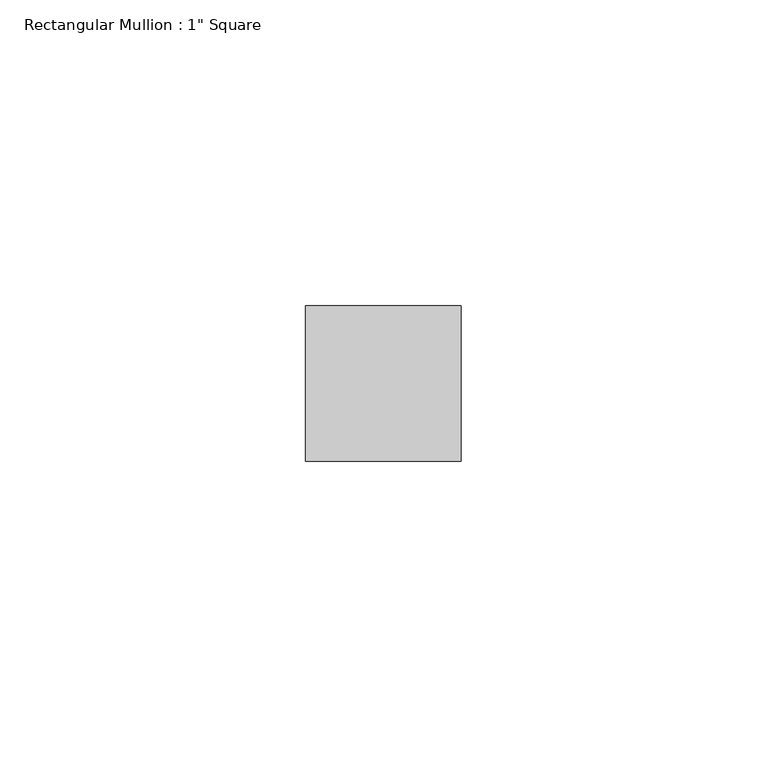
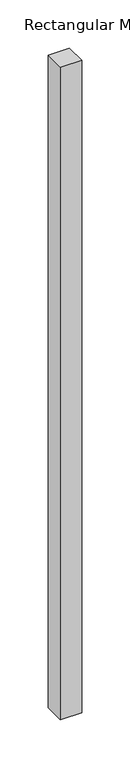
"""IFC4 building model written with IfcOpenShell, lengths in millimetres: member geometry."""

import ifcopenshell
import ifcopenshell.guid

model = None  # the IFC model being written
_history = None  # IfcOwnerHistory: only IFC2X3 demands one
_inside = {}  # id of a spatial element -> (the spatial element, [elements in it])
_under = {}  # id of a project, library or spatial element -> (it, [spatial elements below it])
_declared = {}  # id of a project -> (the project, [libraries it declares])
_typed = {}  # id of a type object -> (the type object, [elements of that type])
_made_of = {}  # id of a material, layer set ... -> (it, [elements and type objects made of it])


def new_model(schema):
    """Start an empty IFC model of exactly this schema.

    Asked for "IFC4X3", IfcOpenShell would pick the latest addendum, in which some entities
    have other attributes; the version numbers below select the first issue.
    IFC2X3 requires an IfcOwnerHistory on every rooted entity: one is made here for all.
    """
    global model, _history
    if schema == "IFC4X3":
        model = ifcopenshell.file(schema_version=(4, 3, 0, 0))
    else:
        model = ifcopenshell.file(schema=schema)
    _inside.clear()
    _under.clear()
    _declared.clear()
    _typed.clear()
    _made_of.clear()
    _history = None
    if model.schema == "IFC2X3":
        org = make("IfcOrganization", Name="unknown")
        user = make(
            "IfcPersonAndOrganization",
            ThePerson=make("IfcPerson", FamilyName="unknown"),
            TheOrganization=org,
        )
        app = make(
            "IfcApplication",
            ApplicationDeveloper=org,
            Version="unknown",
            ApplicationFullName="unknown",
            ApplicationIdentifier="unknown",
        )
        _history = make(
            "IfcOwnerHistory",
            OwningUser=user,
            OwningApplication=app,
            ChangeAction="ADDED",
            CreationDate=0,
        )
    return model


def make(cls, **values):
    """One entity of the class cls with the attributes given. An attribute that is None is left unset."""
    return model.create_entity(
        cls, **{name: value for name, value in values.items() if value is not None}
    )


def rooted(cls, **values):
    """An entity with a GlobalId (a new one), such as an element, a storey or a relation."""
    return make(cls, GlobalId=ifcopenshell.guid.new(), OwnerHistory=_history, **values)


def si_unit(unit_type, name, prefix=None):
    """IfcSIUnit, for example si_unit("LENGTHUNIT", "METRE", prefix="MILLI")."""
    return make("IfcSIUnit", UnitType=unit_type, Prefix=prefix, Name=name)


def assignment(units):
    """IfcUnitAssignment: the units of a project."""
    return None if units is None else make("IfcUnitAssignment", Units=units)


def point(xyz):
    """IfcCartesianPoint."""
    return None if xyz is None else make("IfcCartesianPoint", Coordinates=xyz)


def direction(xyz):
    """IfcDirection."""
    return None if xyz is None else make("IfcDirection", DirectionRatios=xyz)


def frame(location, z_axis=None, x_axis=None):
    """IfcAxis2Placement3D, a coordinate frame: its origin and axes. An axis left out is left unset."""
    return make(
        "IfcAxis2Placement3D",
        Location=point(location),
        Axis=direction(z_axis),
        RefDirection=direction(x_axis),
    )


def origin():
    """The frame at (0, 0, 0) with its axes left unset."""
    return frame((0.0, 0.0, 0.0))


def place(relative_to, where):
    """IfcLocalPlacement: puts the frame where relative to a parent placement (None: the world)."""
    return make(
        "IfcLocalPlacement", PlacementRelTo=relative_to, RelativePlacement=where
    )


def context(
    kind, dimensions, precision=None, world=None, true_north=None, identifier=None
):
    """IfcGeometricRepresentationContext, for example the 3D "Model" context."""
    return make(
        "IfcGeometricRepresentationContext",
        ContextIdentifier=identifier,
        ContextType=kind,
        CoordinateSpaceDimension=dimensions,
        Precision=precision,
        WorldCoordinateSystem=world,
        TrueNorth=true_north,
    )


def project(units=None, contexts=None):
    """IfcProject with its units and contexts."""
    return rooted(
        "IfcProject",
        Name="project",
        RepresentationContexts=contexts,
        UnitsInContext=assignment(units),
    )


def spatial(cls, under=None, at=None, **own):
    """A site, building, storey or space (cls), placed at a placement, below another one or the project."""
    s = rooted(cls, ObjectPlacement=at, **own)
    if under is not None:
        _under.setdefault(under.id(), (under, []))[1].append(s)
    return s


def polyline(points):
    """IfcPolyline through the points."""
    return make("IfcPolyline", Points=[point(p) for p in points])


def outline(outer, holes=None, kind="AREA"):
    """IfcArbitraryClosedProfileDef: a profile drawn as a closed curve; with holes, ...WithVoids."""
    if holes is None:
        return make("IfcArbitraryClosedProfileDef", ProfileType=kind, OuterCurve=outer)
    return make(
        "IfcArbitraryProfileDefWithVoids",
        ProfileType=kind,
        OuterCurve=outer,
        InnerCurves=holes,
    )


def extrude(swept, where, along, depth):
    """IfcExtrudedAreaSolid: the profile swept, set in the frame where, extruded along a direction by depth."""
    return make(
        "IfcExtrudedAreaSolid",
        SweptArea=swept,
        Position=where,
        ExtrudedDirection=direction(along),
        Depth=depth,
    )


def shape(context_of_items, identifier, shape_type, items):
    """IfcShapeRepresentation: the items that make up one representation, for example the "Body"."""
    return make(
        "IfcShapeRepresentation",
        ContextOfItems=context_of_items,
        RepresentationIdentifier=identifier,
        RepresentationType=shape_type,
        Items=items,
    )


def source(mapping_origin, context_of_items, identifier, shape_type, items):
    """IfcRepresentationMap: a shape defined once, which mapped items show again and again."""
    return make(
        "IfcRepresentationMap",
        MappingOrigin=mapping_origin,
        MappedRepresentation=shape(context_of_items, identifier, shape_type, items),
    )


def transform(
    local_origin,
    x_axis=None,
    y_axis=None,
    z_axis=None,
    scale=None,
    scale2=None,
    scale3=None,
    uniform=True,
):
    """IfcCartesianTransformationOperator3D, or its non-uniform kind. x_axis, y_axis, z_axis: its Axis1, 2, 3."""
    if uniform:
        return make(
            "IfcCartesianTransformationOperator3D",
            Axis1=direction(x_axis),
            Axis2=direction(y_axis),
            LocalOrigin=point(local_origin),
            Scale=scale,
            Axis3=direction(z_axis),
        )
    return make(
        "IfcCartesianTransformationOperator3DnonUniform",
        Axis1=direction(x_axis),
        Axis2=direction(y_axis),
        LocalOrigin=point(local_origin),
        Scale=scale,
        Axis3=direction(z_axis),
        Scale2=scale2,
        Scale3=scale3,
    )


def mapped(mapping_source, mapping_target):
    """IfcMappedItem: shows the shape of a source again, moved by a transform."""
    return make(
        "IfcMappedItem", MappingSource=mapping_source, MappingTarget=mapping_target
    )


def made_of(thing, what):
    """Note that an element or type object is made of a material, layer set ...; save() writes the relation."""
    if what is not None:
        _made_of.setdefault(what.id(), (what, []))[1].append(thing)
    return thing


def element(
    cls,
    number,
    at=None,
    inside=None,
    cuts=None,
    type_object=None,
    material=None,
    context=None,
    identifier="Body",
    shape_type=None,
    held_by="IfcProductDefinitionShape",
    body=None,
    shapes=None,
    **own,
):
    """One element of the class cls, such as IfcWall. Its Tag is "e" and its number.

    at: its placement. inside: the storey or other place that contains it. cuts: it is an
    opening in that element (IfcRelVoidsElement). A single representation is given by context,
    identifier, shape_type and body (its items); several are given by shapes. held_by: the class
    of the entity that holds the representations. save() writes the other relations.
    """
    e = rooted(cls, Tag="e%d" % number, ObjectPlacement=at, **own)
    if body is not None:
        shapes = [shape(context, identifier, shape_type, body)]
    if shapes is not None:
        e.Representation = make(held_by, Representations=shapes)
    if inside is not None:
        _inside.setdefault(inside.id(), (inside, []))[1].append(e)
    if cuts is not None:
        rooted(
            "IfcRelVoidsElement", RelatingBuildingElement=cuts, RelatedOpeningElement=e
        )
    if type_object is not None:
        _typed.setdefault(type_object.id(), (type_object, []))[1].append(e)
    return made_of(e, material)


def aggregate(whole, parts):
    """IfcRelAggregates: a whole, such as a stair, and the parts it consists of."""
    return rooted("IfcRelAggregates", RelatingObject=whole, RelatedObjects=parts)


def save(model, path):
    """Write the relations noted so far, then the file.

    IfcRelAggregates (storeys below a building ...), IfcRelContainedInSpatialStructure (elements
    in a storey), IfcRelDefinesByType, IfcRelAssociatesMaterial and IfcRelDeclares: one each for
    every whole, place, type object, material and project.
    """
    for whole, parts in _under.values():
        aggregate(whole, parts)
    for where, things in _inside.values():
        rooted(
            "IfcRelContainedInSpatialStructure",
            RelatedElements=things,
            RelatingStructure=where,
        )
    for kind, things in _typed.values():
        rooted("IfcRelDefinesByType", RelatedObjects=things, RelatingType=kind)
    for what, things in _made_of.values():
        rooted("IfcRelAssociatesMaterial", RelatedObjects=things, RelatingMaterial=what)
    for by, libraries in _declared.values():
        rooted("IfcRelDeclares", RelatingContext=by, RelatedDefinitions=libraries)
    model.write(path)


def member_8174f0e4(model_context):
    return source(origin(), model_context, "Body", "SweptSolid", [
        extrude(outline(polyline([(0.0, 12.7), (0.0, -12.7), (-25.4, -12.7), (-25.4, 12.7), (0.0, 12.7)])), frame((0.0, 0.0, -827.6439889), z_axis=(0.0, 0.0, 1.0), x_axis=(1.0, 0.0, 0.0)), (0.0, 0.0, 1.0), 827.6439889),
    ])


if __name__ == "__main__":
    model = new_model("IFC4")
    model_context = context("Model", 3, world=origin())
    ifc_project = project(units=[si_unit("LENGTHUNIT", "METRE", prefix="MILLI")], contexts=[model_context])
    site = spatial("IfcSite", under=ifc_project)
    building = spatial("IfcBuilding", under=site)
    placement = place(None, origin())
    member_shape = member_8174f0e4(model_context)
    element("IfcMember", 1, ObjectType="Rectangular Mullion : 1\" Square", at=placement, inside=building, context=model_context, shape_type="MappedRepresentation", body=[
        mapped(member_shape, transform((0.0, 0.0, 0.0), x_axis=(1.0, 0.0, 0.0), y_axis=(0.0, 1.0, 0.0), z_axis=(0.0, 0.0, 1.0))),
    ])
    save(model, "model.ifc")
